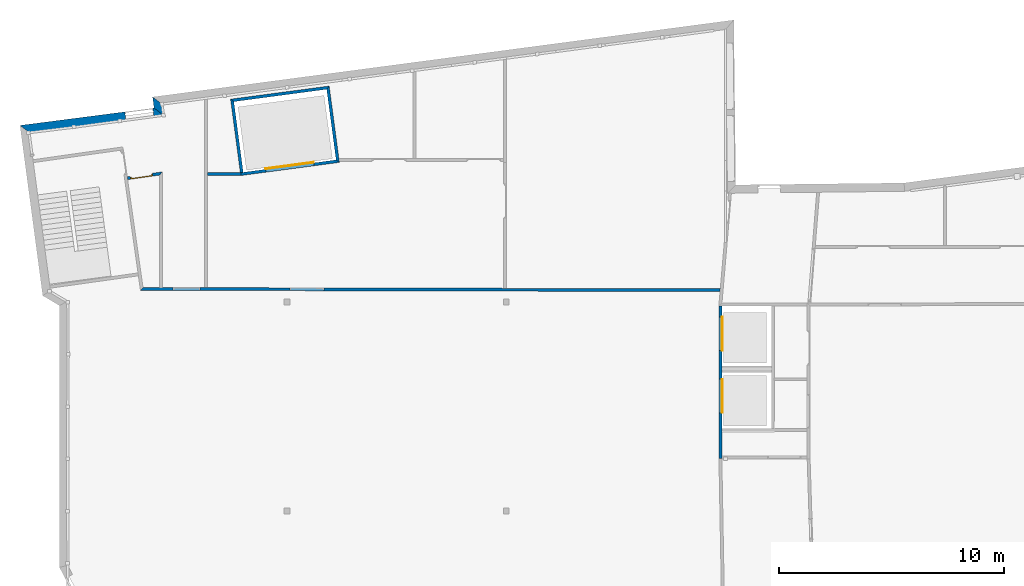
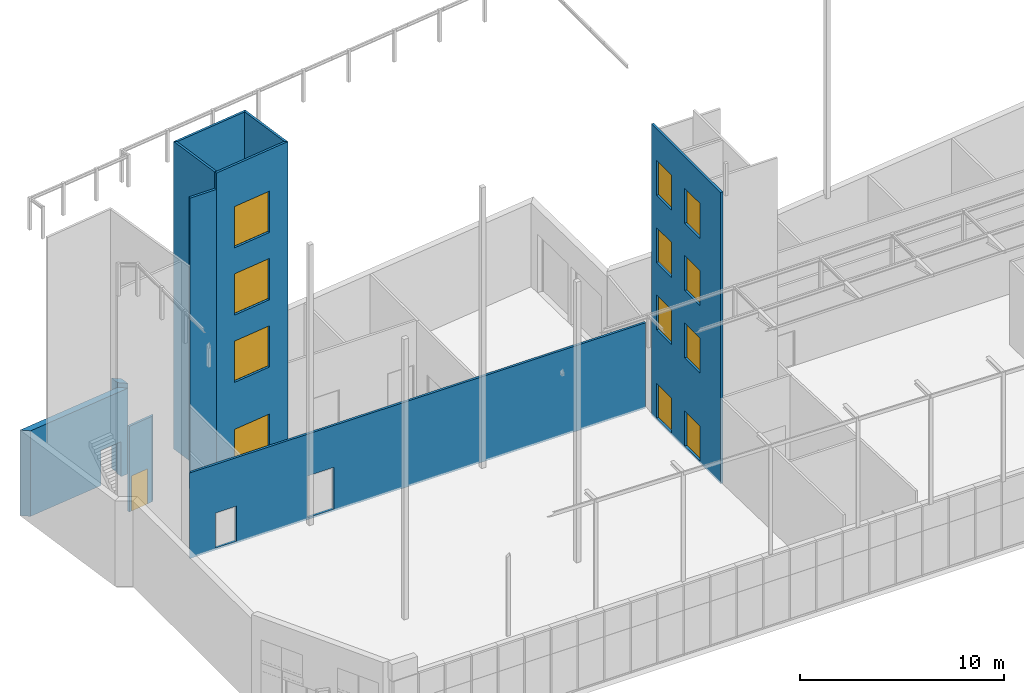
# One storey, part 24 of 40: 13 doors, 10 walls, 16 openings.
"""IFC2X3 building model written with IfcOpenShell, lengths in metres."""

from ifc_helpers import new_model, entity, si_unit, converted_unit, money_unit, direction, frame, origin_with_axes, origin_2d_with_axis, place, context, subcontext, project, spatial, polyline, rectangle, outline, extrude, faceted_brep, source, transform, mapped, material, material_list, layer, layer_set, layer_usage, type_object, element, fill, save


model = new_model("IFC2X3")

# Units and contexts
model_context = context("Model", 3, precision=1e-05, world=origin_with_axes(), true_north=direction((0.0, 1.0)))
body_context = subcontext(model_context, "Body", "Model", "MODEL_VIEW")
ifc_project = project(units=[si_unit("LENGTHUNIT", "METRE"), si_unit("AREAUNIT", "SQUARE_METRE"), si_unit("VOLUMEUNIT", "CUBIC_METRE"), converted_unit("PLANEANGLEUNIT", "DEGREE", entity("IfcPlaneAngleMeasure", 0.0174532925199), si_unit("PLANEANGLEUNIT", "RADIAN"), dimensions=[0, 0, 0, 0, 0, 0, 0]), si_unit("SOLIDANGLEUNIT", "STERADIAN"), money_unit("EUR"), converted_unit("TIMEUNIT", "Year", entity("IfcTimeMeasure", 31556926.0), si_unit("TIMEUNIT", "SECOND"), dimensions=[0, 0, 0, 0, 0, 0, 0]), si_unit("MASSUNIT", "GRAM"), si_unit("THERMODYNAMICTEMPERATUREUNIT", "DEGREE_CELSIUS"), si_unit("LUMINOUSINTENSITYUNIT", "LUMEN")], contexts=[model_context])

# Site, building, storey
site_placement = place(None, origin_with_axes())
site = spatial("IfcSite", under=ifc_project, at=site_placement, Name="Undefined", CompositionType="ELEMENT")
building_placement = place(site_placement, origin_with_axes())
building = spatial("IfcBuilding", under=site, at=building_placement, Name="Undefined", CompositionType="ELEMENT")
storey_placement = place(building_placement, origin_with_axes())
storey = spatial("IfcBuildingStorey", under=building, at=storey_placement, Name="Rez de chauss\x8ee", CompositionType="ELEMENT", Elevation=0.0)

# Wall, openings, doors
ifc_material_1 = material(Name="Finition int - Enduit pl\x89tre")
ifc_layer_1 = layer(ifc_material_1, 0.015, ventilated="UNKNOWN")
ifc_material_2 = material(Name="Struct. - Parpaing b\x8eton")
ifc_layer_2 = layer(ifc_material_2, 0.1, ventilated="UNKNOWN")
ifc_layer_3 = layer(ifc_material_1, 0.015, ventilated="UNKNOWN")
ifc_layer_set_1 = layer_set([ifc_layer_1, ifc_layer_2, ifc_layer_3], Name="0.0-Cloison: parpaing + pl\x89tre 2 faces copie")
ifc_layer_usage_1 = layer_usage(ifc_layer_set_1, "AXIS2", "NEGATIVE", 0.0)
wall_type_1 = type_object("IfcWallType", Name="0.0-Cloison: parpaing + pl\x89tre 2 faces copie 130", PredefinedType="NOTDEFINED")
wall_1_placement = place(storey_placement, frame((28.9587660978, 11.6449226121, 0.0), z_axis=(0.0, 0.0, 1.0), x_axis=(0.0, 1.0, 0.0)))
wall_1 = element("IfcWallStandardCase", 1, at=wall_1_placement, inside=storey, type_object=wall_type_1, material=ifc_layer_usage_1, Name="VOILE_15CM", ObjectType="6700*150", context=body_context, shape_type="SweptSolid", body=[
    extrude(outline(polyline([(0.0, -0.13), (6.78014607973, -0.13), (6.78014607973, 0.0), (0.0, 0.0), (0.0, -0.13)])), origin_with_axes(), (0.0, 0.0, 1.0), 17.4249999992),
])
opening_1_placement = place(wall_1_placement, frame((5.54271704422, 0.0, 0.12), z_axis=(0.0, 0.0, 1.0), x_axis=(1.0, 0.0, 0.0)))
opening_1 = element("IfcOpeningElement", 2, at=opening_1_placement, cuts=wall_1, Name="DOOR_1007", context=body_context, shape_type="SweptSolid", body=[
    extrude(rectangle(XDim=1.5, YDim=2.1, at=origin_2d_with_axis()), frame((0.0, 0.13, 1.05), z_axis=(0.0, 1.0, 0.0), x_axis=(1.0, 0.0, 0.0)), (0.0, 0.0, -1.0), 0.39),
])
opening_2_placement = place(wall_1_placement, frame((2.77421456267, 0.0, 0.12), z_axis=(0.0, 0.0, 1.0), x_axis=(1.0, 0.0, 0.0)))
opening_2 = element("IfcOpeningElement", 3, at=opening_2_placement, cuts=wall_1, Name="DOOR_1006", context=body_context, shape_type="SweptSolid", body=[
    extrude(rectangle(XDim=1.5, YDim=2.1, at=origin_2d_with_axis()), frame((0.0, 0.13, 1.05), z_axis=(0.0, 1.0, 0.0), x_axis=(1.0, 0.0, 0.0)), (0.0, 0.0, -1.0), 0.39),
])
opening_3_placement = place(wall_1_placement, frame((2.77421456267, 0.0, 5.4), z_axis=(0.0, 0.0, 1.0), x_axis=(1.0, 0.0, 0.0)))
opening_3 = element("IfcOpeningElement", 4, at=opening_3_placement, cuts=wall_1, Name="DOOR_1006", context=body_context, shape_type="SweptSolid", body=[
    extrude(rectangle(XDim=1.5, YDim=2.1, at=origin_2d_with_axis()), frame((0.0, 0.13, 1.05), z_axis=(0.0, 1.0, 0.0), x_axis=(1.0, 0.0, 0.0)), (0.0, 0.0, -1.0), 0.39),
])
opening_4_placement = place(wall_1_placement, frame((5.54271704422, 0.0, 5.4), z_axis=(0.0, 0.0, 1.0), x_axis=(1.0, 0.0, 0.0)))
opening_4 = element("IfcOpeningElement", 5, at=opening_4_placement, cuts=wall_1, Name="DOOR_1007", context=body_context, shape_type="SweptSolid", body=[
    extrude(rectangle(XDim=1.5, YDim=2.1, at=origin_2d_with_axis()), frame((0.0, 0.13, 1.05), z_axis=(0.0, 1.0, 0.0), x_axis=(1.0, 0.0, 0.0)), (0.0, 0.0, -1.0), 0.39),
])
opening_5_placement = place(wall_1_placement, frame((2.77421456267, 0.0, 9.425), z_axis=(0.0, 0.0, 1.0), x_axis=(1.0, 0.0, 0.0)))
opening_5 = element("IfcOpeningElement", 6, at=opening_5_placement, cuts=wall_1, Name="DOOR_1006", context=body_context, shape_type="SweptSolid", body=[
    extrude(rectangle(XDim=1.5, YDim=2.1, at=origin_2d_with_axis()), frame((0.0, 0.13, 1.05), z_axis=(0.0, 1.0, 0.0), x_axis=(1.0, 0.0, 0.0)), (0.0, 0.0, -1.0), 0.39),
])
opening_6_placement = place(wall_1_placement, frame((5.54271704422, 0.0, 9.425), z_axis=(0.0, 0.0, 1.0), x_axis=(1.0, 0.0, 0.0)))
opening_6 = element("IfcOpeningElement", 7, at=opening_6_placement, cuts=wall_1, Name="DOOR_1007", context=body_context, shape_type="SweptSolid", body=[
    extrude(rectangle(XDim=1.5, YDim=2.1, at=origin_2d_with_axis()), frame((0.0, 0.13, 1.05), z_axis=(0.0, 1.0, 0.0), x_axis=(1.0, 0.0, 0.0)), (0.0, 0.0, -1.0), 0.39),
])
opening_7_placement = place(wall_1_placement, frame((2.77421456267, 0.0, 13.45), z_axis=(0.0, 0.0, 1.0), x_axis=(1.0, 0.0, 0.0)))
opening_7 = element("IfcOpeningElement", 8, at=opening_7_placement, cuts=wall_1, Name="DOOR_1006", context=body_context, shape_type="SweptSolid", body=[
    extrude(rectangle(XDim=1.5, YDim=2.1, at=origin_2d_with_axis()), frame((0.0, 0.13, 1.05), z_axis=(0.0, 1.0, 0.0), x_axis=(1.0, 0.0, 0.0)), (0.0, 0.0, -1.0), 0.39),
])
opening_8_placement = place(wall_1_placement, frame((5.54271704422, 0.0, 13.45), z_axis=(0.0, 0.0, 1.0), x_axis=(1.0, 0.0, 0.0)))
opening_8 = element("IfcOpeningElement", 9, at=opening_8_placement, cuts=wall_1, Name="DOOR_1007", context=body_context, shape_type="SweptSolid", body=[
    extrude(rectangle(XDim=1.5, YDim=2.1, at=origin_2d_with_axis()), frame((0.0, 0.13, 1.05), z_axis=(0.0, 1.0, 0.0), x_axis=(1.0, 0.0, 0.0)), (0.0, 0.0, -1.0), 0.39),
])
ifc_material_3 = material(Name="Background Fill-International")
ifc_material_4 = material(Name="Air Space")
ifc_material_5 = material(Name="Foreground Fill-International")
ifc_material_6 = material(Name="07 | Insulation Rigid")
ifc_material_7 = material(Name="07 | Insulation Batt")
ifc_material_list_1 = material_list([ifc_material_3, ifc_material_4, ifc_material_5, ifc_material_3, ifc_material_3, ifc_material_3, ifc_material_3, ifc_material_6, ifc_material_3, ifc_material_3, ifc_material_3, ifc_material_3, ifc_material_3, ifc_material_7, ifc_material_3])
door_style_1 = type_object("IfcDoorStyle", Name="Porte coulissante double ext\x8erieure 18", ConstructionType="NOTDEFINED", OperationType="DOUBLE_DOOR_SLIDING", ParameterTakesPrecedence=False, Sizeable=False)
shared_shape_1 = source(origin_with_axes(), body_context, "Body", "Brep", [
    faceted_brep([(-0.75, 0.045, 0.0), (0.0, 0.045, 0.0), (0.0, 0.005, 0.0), (-0.75, 0.005, 0.0), (-0.75, 0.045, 2.1), (0.0, 0.045, 2.1), (0.0, 0.005, 2.1), (-0.75, 0.005, 2.1)], [[[0, 1, 2, 3]], [[0, 4, 5, 1]], [[1, 5, 6, 2]], [[3, 2, 6, 7]], [[4, 0, 3, 7]], [[5, 4, 7, 6]]]),
    faceted_brep([(0.75, 0.045, 0.0), (0.75, 0.005, 0.0), (0.0, 0.005, 0.0), (0.0, 0.045, 0.0), (0.75, 0.045, 2.1), (0.75, 0.005, 2.1), (0.0, 0.005, 2.1), (0.0, 0.045, 2.1)], [[[0, 1, 2, 3]], [[4, 5, 1, 0]], [[1, 5, 6, 2]], [[3, 2, 6, 7]], [[0, 3, 7, 4]], [[7, 6, 5, 4]]]),
])
door_1_placement = place(opening_1_placement, frame((0.75, 0.0, 0.0), z_axis=(0.0, 0.0, 1.0), x_axis=(-1.0, 0.0, 0.0)))
door_1 = element("IfcDoor", 10, at=door_1_placement, inside=storey, type_object=door_style_1, material=ifc_material_list_1, Name="DOOR_1007", ObjectType="DOOR", OverallHeight=2.1, OverallWidth=1.5, context=body_context, shape_type="MappedRepresentation", body=[
    mapped(shared_shape_1, transform((0.75, 0.13, 0.0))),
])
fill(opening_1, door_1)
door_2_placement = place(opening_2_placement, frame((0.75, 0.0, 0.0), z_axis=(0.0, 0.0, 1.0), x_axis=(-1.0, 0.0, 0.0)))
door_2 = element("IfcDoor", 11, at=door_2_placement, inside=storey, type_object=door_style_1, material=ifc_material_list_1, Name="DOOR_1006", ObjectType="DOOR", OverallHeight=2.1, OverallWidth=1.5, context=body_context, shape_type="MappedRepresentation", body=[
    mapped(shared_shape_1, transform((0.75, 0.13, 0.0))),
])
fill(opening_2, door_2)
shared_shape_2 = source(origin_with_axes(), body_context, "Body", "Brep", [
    faceted_brep([(-0.75, 0.045, 0.0), (0.0, 0.045, 0.0), (0.0, 0.005, 0.0), (-0.75, 0.005, 0.0), (-0.75, 0.045, 2.1), (0.0, 0.045, 2.1), (0.0, 0.005, 2.1), (-0.75, 0.005, 2.1)], [[[0, 1, 2, 3]], [[0, 4, 5, 1]], [[1, 5, 6, 2]], [[3, 2, 6, 7]], [[4, 0, 3, 7]], [[5, 4, 7, 6]]]),
    faceted_brep([(0.75, 0.045, 0.0), (0.75, 0.005, 0.0), (0.0, 0.005, 0.0), (0.0, 0.045, 0.0), (0.75, 0.045, 2.1), (0.75, 0.005, 2.1), (0.0, 0.005, 2.1), (0.0, 0.045, 2.1)], [[[0, 1, 2, 3]], [[4, 5, 1, 0]], [[1, 5, 6, 2]], [[3, 2, 6, 7]], [[0, 3, 7, 4]], [[7, 6, 5, 4]]]),
])
door_3_placement = place(opening_3_placement, frame((0.75, 0.0, 0.0), z_axis=(0.0, 0.0, 1.0), x_axis=(-1.0, 0.0, 0.0)))
door_3 = element("IfcDoor", 12, at=door_3_placement, inside=storey, type_object=door_style_1, material=ifc_material_list_1, Name="DOOR_1006", ObjectType="DOOR", OverallHeight=2.1, OverallWidth=1.5, context=body_context, shape_type="MappedRepresentation", body=[
    mapped(shared_shape_2, transform((0.75, 0.13, 0.0))),
])
fill(opening_3, door_3)
door_4_placement = place(opening_4_placement, frame((0.75, 0.0, 0.0), z_axis=(0.0, 0.0, 1.0), x_axis=(-1.0, 0.0, 0.0)))
door_4 = element("IfcDoor", 13, at=door_4_placement, inside=storey, type_object=door_style_1, material=ifc_material_list_1, Name="DOOR_1007", ObjectType="DOOR", OverallHeight=2.1, OverallWidth=1.5, context=body_context, shape_type="MappedRepresentation", body=[
    mapped(shared_shape_2, transform((0.75, 0.13, 0.0))),
])
fill(opening_4, door_4)
shared_shape_3 = source(origin_with_axes(), body_context, "Body", "Brep", [
    faceted_brep([(-0.75, 0.045, 0.0), (0.0, 0.045, 0.0), (0.0, 0.005, 0.0), (-0.75, 0.005, 0.0), (-0.75, 0.045, 2.1), (0.0, 0.045, 2.1), (0.0, 0.005, 2.1), (-0.75, 0.005, 2.1)], [[[0, 1, 2, 3]], [[0, 4, 5, 1]], [[1, 5, 6, 2]], [[3, 2, 6, 7]], [[4, 0, 3, 7]], [[5, 4, 7, 6]]]),
    faceted_brep([(0.75, 0.045, 0.0), (0.75, 0.005, 0.0), (0.0, 0.005, 0.0), (0.0, 0.045, 0.0), (0.75, 0.045, 2.1), (0.75, 0.005, 2.1), (0.0, 0.005, 2.1), (0.0, 0.045, 2.1)], [[[0, 1, 2, 3]], [[4, 5, 1, 0]], [[1, 5, 6, 2]], [[3, 2, 6, 7]], [[0, 3, 7, 4]], [[7, 6, 5, 4]]]),
])
door_5_placement = place(opening_5_placement, frame((0.75, 0.0, 0.0), z_axis=(0.0, 0.0, 1.0), x_axis=(-1.0, 0.0, 0.0)))
door_5 = element("IfcDoor", 14, at=door_5_placement, inside=storey, type_object=door_style_1, material=ifc_material_list_1, Name="DOOR_1006", ObjectType="DOOR", OverallHeight=2.1, OverallWidth=1.5, context=body_context, shape_type="MappedRepresentation", body=[
    mapped(shared_shape_3, transform((0.75, 0.13, 0.0))),
])
fill(opening_5, door_5)
door_6_placement = place(opening_6_placement, frame((0.75, 0.0, 0.0), z_axis=(0.0, 0.0, 1.0), x_axis=(-1.0, 0.0, 0.0)))
door_6 = element("IfcDoor", 15, at=door_6_placement, inside=storey, type_object=door_style_1, material=ifc_material_list_1, Name="DOOR_1007", ObjectType="DOOR", OverallHeight=2.1, OverallWidth=1.5, context=body_context, shape_type="MappedRepresentation", body=[
    mapped(shared_shape_3, transform((0.75, 0.13, 0.0))),
])
fill(opening_6, door_6)
shared_shape_4 = source(origin_with_axes(), body_context, "Body", "Brep", [
    faceted_brep([(-0.75, 0.045, 0.0), (0.0, 0.045, 0.0), (0.0, 0.005, 0.0), (-0.75, 0.005, 0.0), (-0.75, 0.045, 2.1), (0.0, 0.045, 2.1), (0.0, 0.005, 2.1), (-0.75, 0.005, 2.1)], [[[0, 1, 2, 3]], [[0, 4, 5, 1]], [[1, 5, 6, 2]], [[3, 2, 6, 7]], [[4, 0, 3, 7]], [[5, 4, 7, 6]]]),
    faceted_brep([(0.75, 0.045, 0.0), (0.75, 0.005, 0.0), (0.0, 0.005, 0.0), (0.0, 0.045, 0.0), (0.75, 0.045, 2.1), (0.75, 0.005, 2.1), (0.0, 0.005, 2.1), (0.0, 0.045, 2.1)], [[[0, 1, 2, 3]], [[4, 5, 1, 0]], [[1, 5, 6, 2]], [[3, 2, 6, 7]], [[0, 3, 7, 4]], [[7, 6, 5, 4]]]),
])
door_7_placement = place(opening_7_placement, frame((0.75, 0.0, 0.0), z_axis=(0.0, 0.0, 1.0), x_axis=(-1.0, 0.0, 0.0)))
door_7 = element("IfcDoor", 16, at=door_7_placement, inside=storey, type_object=door_style_1, material=ifc_material_list_1, Name="DOOR_1006", ObjectType="DOOR", OverallHeight=2.1, OverallWidth=1.5, context=body_context, shape_type="MappedRepresentation", body=[
    mapped(shared_shape_4, transform((0.75, 0.13, 0.0))),
])
fill(opening_7, door_7)
door_8_placement = place(opening_8_placement, frame((0.75, 0.0, 0.0), z_axis=(0.0, 0.0, 1.0), x_axis=(-1.0, 0.0, 0.0)))
door_8 = element("IfcDoor", 17, at=door_8_placement, inside=storey, type_object=door_style_1, material=ifc_material_list_1, Name="DOOR_1007", ObjectType="DOOR", OverallHeight=2.1, OverallWidth=1.5, context=body_context, shape_type="MappedRepresentation", body=[
    mapped(shared_shape_4, transform((0.75, 0.13, 0.0))),
])
fill(opening_8, door_8)

# Wall
ifc_layer_usage_2 = layer_usage(ifc_layer_set_1, "AXIS2", "NEGATIVE", 0.0)
wall_2_placement = place(storey_placement, frame((7.70283783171, 24.2267083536, 0.0), z_axis=(0.0, 0.0, 1.0), x_axis=(-0.99999999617, -8.7523968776e-05, 0.0)))
element("IfcWallStandardCase", 18, at=wall_2_placement, inside=storey, type_object=wall_type_1, material=ifc_layer_usage_2, Name="MACONNERIE_15CM", ObjectType="5000*150", context=body_context, shape_type="SweptSolid", body=[
    extrude(outline(polyline([(0.00862882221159, -0.13), (1.49077293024, -0.13), (1.49078430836, 0.0), (-4.82772932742e-08, 0.0), (0.00862882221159, -0.13)])), origin_with_axes(), (0.0, 0.0, 1.0), 17.4249999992),
])

# Wall, opening, door
ifc_layer_usage_3 = layer_usage(ifc_layer_set_1, "AXIS2", "NEGATIVE", 0.0)
wall_3_placement = place(storey_placement, frame((2.64282933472, 24.1727505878, 0.0), z_axis=(0.0, 0.0, 1.0), x_axis=(0.990268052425, 0.13917321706, 0.0)))
wall_3 = element("IfcWallStandardCase", 19, at=wall_3_placement, inside=storey, type_object=wall_type_1, material=ifc_layer_usage_3, Name="Wall_Int_05", context=body_context, shape_type="SweptSolid", body=[
    extrude(outline(polyline([(0.000230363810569, -0.13), (1.42973236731, -0.13), (1.57928027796, 0.0), (0.0, 0.0), (0.000230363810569, -0.13)])), origin_with_axes(), (0.0, 0.0, 1.0), 5.12),
])
opening_9_placement = place(wall_3_placement, frame((0.630432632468, 0.0, 0.0), z_axis=(0.0, 0.0, 1.0), x_axis=(1.0, 0.0, 0.0)))
opening_9 = element("IfcOpeningElement", 20, at=opening_9_placement, cuts=wall_3, Name="DOOR_1000", context=body_context, shape_type="SweptSolid", body=[
    extrude(rectangle(XDim=1.0, YDim=2.1, at=origin_2d_with_axis()), frame((0.0, -0.26, 1.05), z_axis=(0.0, 1.0, 0.0), x_axis=(1.0, 0.0, 0.0)), (0.0, 0.0, 1.0), 0.13),
    extrude(rectangle(XDim=1.0, YDim=2.1, at=origin_2d_with_axis()), frame((0.0, 0.0, 1.05), z_axis=(0.0, -1.0, 0.0), x_axis=(1.0, 0.0, 0.0)), (0.0, 0.0, 1.0), 0.13),
])
ifc_material_list_2 = material_list([ifc_material_3, ifc_material_4])
door_style_2 = type_object("IfcDoorStyle", Name="IFC Porte - Simple battant", ConstructionType="NOTDEFINED", OperationType="SINGLE_SWING_RIGHT", ParameterTakesPrecedence=True, Sizeable=False)
shared_shape_5 = source(origin_with_axes(), body_context, "Body", "Brep", [
    faceted_brep([(-0.5, 0.0, 0.0), (-0.45, 0.0, 0.0), (-0.45, -0.1, 0.0), (-0.5, -0.1, 0.0), (-0.5, 0.0, 2.1), (0.5, 0.0, 2.1), (0.5, 0.0, 0.0), (0.45, 0.0, 0.0), (0.45, 0.0, 2.05), (-0.45, 0.0, 2.05), (-0.45, -0.1, 2.05), (0.45, -0.1, 2.05), (0.45, -0.1, 0.0), (0.5, -0.1, 0.0), (0.5, -0.1, 2.1), (-0.5, -0.1, 2.1)], [[[0, 1, 2, 3]], [[0, 4, 5, 6, 7, 8, 9, 1]], [[1, 9, 10, 2]], [[3, 2, 10, 11, 12, 13, 14, 15]], [[4, 0, 3, 15]], [[5, 4, 15, 14]], [[6, 5, 14, 13]], [[7, 6, 13, 12]], [[8, 7, 12, 11]], [[9, 8, 11, 10]]]),
    faceted_brep([(0.45, 0.0, 0.0), (0.45, 0.0, 2.05), (0.45, -0.04, 2.05), (0.45, -0.04, 0.0), (-0.45, 0.0, 0.0), (-0.45, 0.0, 2.05), (-0.45, -0.04, 2.05), (-0.45, -0.04, 0.0)], [[[0, 1, 2, 3]], [[0, 4, 5, 1]], [[1, 5, 6, 2]], [[3, 2, 6, 7]], [[4, 0, 3, 7]], [[5, 4, 7, 6]]]),
])
door_9_placement = place(opening_9_placement, frame((0.5, 0.0, 0.0), z_axis=(0.0, 0.0, 1.0), x_axis=(-1.0, 0.0, 0.0)))
door_9 = element("IfcDoor", 21, at=door_9_placement, inside=storey, type_object=door_style_2, material=ifc_material_list_2, Name="DOOR_1000", ObjectType="DOOR", OverallHeight=2.1, OverallWidth=1.0, context=body_context, shape_type="MappedRepresentation", body=[
    mapped(shared_shape_5, transform((0.5, 0.13, 0.0))),
])
fill(opening_9, door_9)

# Wall, openings, doors
ifc_layer_usage_4 = layer_usage(ifc_layer_set_1, "AXIS2", "NEGATIVE", 0.0)
wall_4_placement = place(storey_placement, frame((12.0790641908, 24.8106212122, 0.0), z_axis=(0.0, 0.0, 1.0), x_axis=(-0.991215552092, -0.132256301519, 0.0)))
wall_4 = element("IfcWallStandardCase", 22, at=wall_4_placement, inside=storey, type_object=wall_type_1, material=ifc_layer_usage_4, Name="VOILE_15CM", ObjectType="6700*150", context=body_context, shape_type="SweptSolid", body=[
    extrude(outline(polyline([(0.13, -0.13), (4.4063808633, -0.13), (4.41500973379, 0.0), (0.0, 0.0), (0.13, -0.13)])), origin_with_axes(), (0.0, 0.0, 1.0), 18.4),
])
opening_10_placement = place(wall_4_placement, frame((2.21506014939, 0.0, 0.12), z_axis=(0.0, 0.0, 1.0), x_axis=(1.0, 0.0, 0.0)))
opening_10 = element("IfcOpeningElement", 23, at=opening_10_placement, cuts=wall_4, Name="DOOR_1007", context=body_context, shape_type="SweptSolid", body=[
    extrude(rectangle(XDim=2.15999982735, YDim=2.47221199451, at=origin_2d_with_axis()), frame((0.0, 0.13, 1.23610599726), z_axis=(0.0, 1.0, 0.0), x_axis=(1.0, 0.0, 0.0)), (0.0, 0.0, -1.0), 0.39),
])
opening_11_placement = place(wall_4_placement, frame((2.21506014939, 0.0, 5.40000000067), z_axis=(0.0, 0.0, 1.0), x_axis=(1.0, 0.0, 0.0)))
opening_11 = element("IfcOpeningElement", 24, at=opening_11_placement, cuts=wall_4, Name="DOOR_1007", context=body_context, shape_type="SweptSolid", body=[
    extrude(rectangle(XDim=2.15999982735, YDim=2.47221199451, at=origin_2d_with_axis()), frame((0.0, 0.13, 1.23610599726), z_axis=(0.0, 1.0, 0.0), x_axis=(1.0, 0.0, 0.0)), (0.0, 0.0, -1.0), 0.39),
])
opening_12_placement = place(wall_4_placement, frame((2.21506014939, 0.0, 9.425), z_axis=(0.0, 0.0, 1.0), x_axis=(1.0, 0.0, 0.0)))
opening_12 = element("IfcOpeningElement", 25, at=opening_12_placement, cuts=wall_4, Name="DOOR_1007", context=body_context, shape_type="SweptSolid", body=[
    extrude(rectangle(XDim=2.15999982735, YDim=2.47221199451, at=origin_2d_with_axis()), frame((0.0, 0.13, 1.23610599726), z_axis=(0.0, 1.0, 0.0), x_axis=(1.0, 0.0, 0.0)), (0.0, 0.0, -1.0), 0.39),
])
opening_13_placement = place(wall_4_placement, frame((2.21506014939, 0.0, 13.45), z_axis=(0.0, 0.0, 1.0), x_axis=(1.0, 0.0, 0.0)))
opening_13 = element("IfcOpeningElement", 26, at=opening_13_placement, cuts=wall_4, Name="DOOR_1007", context=body_context, shape_type="SweptSolid", body=[
    extrude(rectangle(XDim=2.15999982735, YDim=2.47221199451, at=origin_2d_with_axis()), frame((0.0, 0.13, 1.23610599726), z_axis=(0.0, 1.0, 0.0), x_axis=(1.0, 0.0, 0.0)), (0.0, 0.0, -1.0), 0.39),
])
shared_shape_6 = source(origin_with_axes(), body_context, "Body", "Brep", [
    faceted_brep([(-1.07999991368, 0.045, 0.0), (0.0, 0.045, 0.0), (0.0, 0.005, 0.0), (-1.07999991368, 0.005, 0.0), (-1.07999991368, 0.045, 2.47221199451), (0.0, 0.045, 2.47221199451), (0.0, 0.005, 2.47221199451), (-1.07999991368, 0.005, 2.47221199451)], [[[0, 1, 2, 3]], [[0, 4, 5, 1]], [[1, 5, 6, 2]], [[3, 2, 6, 7]], [[4, 0, 3, 7]], [[5, 4, 7, 6]]]),
    faceted_brep([(1.07999991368, 0.045, 0.0), (1.07999991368, 0.005, 0.0), (0.0, 0.005, 0.0), (0.0, 0.045, 0.0), (1.07999991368, 0.045, 2.47221199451), (1.07999991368, 0.005, 2.47221199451), (0.0, 0.005, 2.47221199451), (0.0, 0.045, 2.47221199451)], [[[0, 1, 2, 3]], [[4, 5, 1, 0]], [[1, 5, 6, 2]], [[3, 2, 6, 7]], [[0, 3, 7, 4]], [[7, 6, 5, 4]]]),
])
door_10_placement = place(opening_10_placement, frame((1.07999991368, 0.0, 0.0), z_axis=(0.0, 0.0, 1.0), x_axis=(-1.0, 0.0, 0.0)))
door_10 = element("IfcDoor", 27, at=door_10_placement, inside=storey, type_object=door_style_1, material=ifc_material_list_1, Name="DOOR_1007", ObjectType="DOOR", OverallHeight=2.47221, OverallWidth=2.16, context=body_context, shape_type="MappedRepresentation", body=[
    mapped(shared_shape_6, transform((1.07999991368, 0.13, 0.0))),
])
fill(opening_10, door_10)
shared_shape_7 = source(origin_with_axes(), body_context, "Body", "Brep", [
    faceted_brep([(-1.07999991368, 0.045, 0.0), (0.0, 0.045, 0.0), (0.0, 0.005, 0.0), (-1.07999991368, 0.005, 0.0), (-1.07999991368, 0.045, 2.47221199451), (0.0, 0.045, 2.47221199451), (0.0, 0.005, 2.47221199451), (-1.07999991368, 0.005, 2.47221199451)], [[[0, 1, 2, 3]], [[0, 4, 5, 1]], [[1, 5, 6, 2]], [[3, 2, 6, 7]], [[4, 0, 3, 7]], [[5, 4, 7, 6]]]),
    faceted_brep([(1.07999991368, 0.045, 0.0), (1.07999991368, 0.005, 0.0), (0.0, 0.005, 0.0), (0.0, 0.045, 0.0), (1.07999991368, 0.045, 2.47221199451), (1.07999991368, 0.005, 2.47221199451), (0.0, 0.005, 2.47221199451), (0.0, 0.045, 2.47221199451)], [[[0, 1, 2, 3]], [[4, 5, 1, 0]], [[1, 5, 6, 2]], [[3, 2, 6, 7]], [[0, 3, 7, 4]], [[7, 6, 5, 4]]]),
])
door_11_placement = place(opening_11_placement, frame((1.07999991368, 0.0, 0.0), z_axis=(0.0, 0.0, 1.0), x_axis=(-1.0, 0.0, 0.0)))
door_11 = element("IfcDoor", 28, at=door_11_placement, inside=storey, type_object=door_style_1, material=ifc_material_list_1, Name="DOOR_1007", ObjectType="DOOR", OverallHeight=2.47221, OverallWidth=2.16, context=body_context, shape_type="MappedRepresentation", body=[
    mapped(shared_shape_7, transform((1.07999991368, 0.13, 0.0))),
])
fill(opening_11, door_11)
shared_shape_8 = source(origin_with_axes(), body_context, "Body", "Brep", [
    faceted_brep([(-1.07999991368, 0.045, 0.0), (0.0, 0.045, 0.0), (0.0, 0.005, 0.0), (-1.07999991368, 0.005, 0.0), (-1.07999991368, 0.045, 2.47221199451), (0.0, 0.045, 2.47221199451), (0.0, 0.005, 2.47221199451), (-1.07999991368, 0.005, 2.47221199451)], [[[0, 1, 2, 3]], [[0, 4, 5, 1]], [[1, 5, 6, 2]], [[3, 2, 6, 7]], [[4, 0, 3, 7]], [[5, 4, 7, 6]]]),
    faceted_brep([(1.07999991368, 0.045, 0.0), (1.07999991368, 0.005, 0.0), (0.0, 0.005, 0.0), (0.0, 0.045, 0.0), (1.07999991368, 0.045, 2.47221199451), (1.07999991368, 0.005, 2.47221199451), (0.0, 0.005, 2.47221199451), (0.0, 0.045, 2.47221199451)], [[[0, 1, 2, 3]], [[4, 5, 1, 0]], [[1, 5, 6, 2]], [[3, 2, 6, 7]], [[0, 3, 7, 4]], [[7, 6, 5, 4]]]),
])
door_12_placement = place(opening_12_placement, frame((1.07999991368, 0.0, 0.0), z_axis=(0.0, 0.0, 1.0), x_axis=(-1.0, 0.0, 0.0)))
door_12 = element("IfcDoor", 29, at=door_12_placement, inside=storey, type_object=door_style_1, material=ifc_material_list_1, Name="DOOR_1007", ObjectType="DOOR", OverallHeight=2.47221, OverallWidth=2.16, context=body_context, shape_type="MappedRepresentation", body=[
    mapped(shared_shape_8, transform((1.07999991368, 0.13, 0.0))),
])
fill(opening_12, door_12)
shared_shape_9 = source(origin_with_axes(), body_context, "Body", "Brep", [
    faceted_brep([(-1.07999991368, 0.045, 0.0), (0.0, 0.045, 0.0), (0.0, 0.005, 0.0), (-1.07999991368, 0.005, 0.0), (-1.07999991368, 0.045, 2.47221199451), (0.0, 0.045, 2.47221199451), (0.0, 0.005, 2.47221199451), (-1.07999991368, 0.005, 2.47221199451)], [[[0, 1, 2, 3]], [[0, 4, 5, 1]], [[1, 5, 6, 2]], [[3, 2, 6, 7]], [[4, 0, 3, 7]], [[5, 4, 7, 6]]]),
    faceted_brep([(1.07999991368, 0.045, 0.0), (1.07999991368, 0.005, 0.0), (0.0, 0.005, 0.0), (0.0, 0.045, 0.0), (1.07999991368, 0.045, 2.47221199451), (1.07999991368, 0.005, 2.47221199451), (0.0, 0.005, 2.47221199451), (0.0, 0.045, 2.47221199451)], [[[0, 1, 2, 3]], [[4, 5, 1, 0]], [[1, 5, 6, 2]], [[3, 2, 6, 7]], [[0, 3, 7, 4]], [[7, 6, 5, 4]]]),
])
door_13_placement = place(opening_13_placement, frame((1.07999991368, 0.0, 0.0), z_axis=(0.0, 0.0, 1.0), x_axis=(-1.0, 0.0, 0.0)))
door_13 = element("IfcDoor", 30, at=door_13_placement, inside=storey, type_object=door_style_1, material=ifc_material_list_1, Name="DOOR_1007", ObjectType="DOOR", OverallHeight=2.47221, OverallWidth=2.16, context=body_context, shape_type="MappedRepresentation", body=[
    mapped(shared_shape_9, transform((1.07999991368, 0.13, 0.0))),
])
fill(opening_13, door_13)

# Walls
ifc_layer_usage_5 = layer_usage(ifc_layer_set_1, "AXIS2", "NEGATIVE", 0.015)
wall_5_placement = place(storey_placement, frame((7.70283783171, 24.2267083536, 0.0), z_axis=(0.0, 0.0, 1.0), x_axis=(-0.131609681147, 0.991301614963, 0.0)))
element("IfcWallStandardCase", 31, at=wall_5_placement, inside=storey, type_object=wall_type_1, material=ifc_layer_usage_5, Name="VOILE_15CM", ObjectType="6700*150", context=body_context, shape_type="SweptSolid", body=[
    extrude(outline(polyline([(0.130075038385, -0.115), (3.3017297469, -0.115), (3.43169498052, 0.015), (0.133129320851, 0.015), (0.130075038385, -0.115)])), origin_with_axes(), (0.0, 0.0, 1.0), 18.4),
])
ifc_layer_usage_6 = layer_usage(ifc_layer_set_1, "AXIS2", "NEGATIVE", 0.0)
wall_6_placement = place(storey_placement, frame((7.2511930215, 27.628557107, 0.0), z_axis=(0.0, 0.0, 1.0), x_axis=(0.991266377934, 0.131874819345, 0.0)))
element("IfcWallStandardCase", 32, at=wall_6_placement, inside=storey, type_object=wall_type_1, material=ifc_layer_usage_6, Name="VOILE_15CM", ObjectType="6700*150", context=body_context, shape_type="SweptSolid", body=[
    extrude(outline(polyline([(0.114965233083, -0.13), (4.28282155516, -0.13), (4.41277153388, 0.0), (-0.0150000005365, 0.0), (0.114965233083, -0.13)])), origin_with_axes(), (0.0, 0.0, 1.0), 18.4),
])
ifc_layer_usage_7 = layer_usage(ifc_layer_set_1, "AXIS2", "NEGATIVE", 0.0)
wall_7_placement = place(storey_placement, frame((11.6254250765, 28.2104905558, 0.0), z_axis=(0.0, 0.0, 1.0), x_axis=(0.132256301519, -0.991215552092, 0.0)))
element("IfcWallStandardCase", 33, at=wall_7_placement, inside=storey, type_object=wall_type_1, material=ifc_layer_usage_7, Name="Wall_Int_08", context=body_context, shape_type="SweptSolid", body=[
    extrude(outline(polyline([(0.12994997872, -0.13), (3.3, -0.13), (3.43, 0.0), (0.0, 0.0), (0.12994997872, -0.13)])), origin_with_axes(), (0.0, 0.0, 1.0), 18.4),
])

# Wall, openings
ifc_layer_usage_8 = layer_usage(ifc_layer_set_1, "AXIS2", "NEGATIVE", 0.0)
wall_8_placement = place(storey_placement, frame((3.34368482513, 19.2492296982, 0.0), z_axis=(0.0, 0.0, 1.0), x_axis=(0.999997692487, -0.00214826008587, 0.0)))
wall_8 = element("IfcWallStandardCase", 34, at=wall_8_placement, inside=storey, type_object=wall_type_1, material=ifc_layer_usage_8, Name="Wall_Int_06", context=body_context, shape_type="SweptSolid", body=[
    extrude(outline(polyline([(-0.112560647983, -0.13), (25.6646604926, -0.13), (25.675531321, 0.0), (0.0, 0.0), (-0.112560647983, -0.13)])), origin_with_axes(), (0.0, 0.0, 1.0), 5.12),
])
opening_14_placement = place(wall_8_placement, frame((1.9416639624, 0.0, 0.12), z_axis=(0.0, 0.0, 1.0), x_axis=(1.0, 0.0, 0.0)))
element("IfcOpeningElement", 35, at=opening_14_placement, cuts=wall_8, Name="DOOR", context=body_context, shape_type="SweptSolid", body=[
    extrude(rectangle(XDim=1.2, YDim=2.1, at=origin_2d_with_axis()), frame((0.0, 0.13, 1.05), z_axis=(0.0, -1.0, 0.0), x_axis=(1.0, 0.0, 0.0)), (0.0, 0.0, 1.0), 0.13),
    extrude(rectangle(XDim=1.2, YDim=2.1, at=origin_2d_with_axis()), frame((0.0, -0.13, 1.05), z_axis=(0.0, 1.0, 0.0), x_axis=(1.0, 0.0, 0.0)), (0.0, 0.0, 1.0), 0.13),
])
opening_15_placement = place(wall_8_placement, frame((7.28907889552, 0.0, 0.12), z_axis=(0.0, 0.0, 1.0), x_axis=(1.0, 0.0, 0.0)))
element("IfcOpeningElement", 36, at=opening_15_placement, cuts=wall_8, Name="DOOR", context=body_context, shape_type="SweptSolid", body=[
    extrude(rectangle(XDim=1.5, YDim=2.5, at=origin_2d_with_axis()), frame((0.0, 0.13, 1.25), z_axis=(0.0, -1.0, 0.0), x_axis=(1.0, 0.0, 0.0)), (0.0, 0.0, 1.0), 0.13),
    extrude(rectangle(XDim=1.5, YDim=2.5, at=origin_2d_with_axis()), frame((0.0, -0.13, 1.25), z_axis=(0.0, 1.0, 0.0), x_axis=(1.0, 0.0, 0.0)), (0.0, 0.0, 1.0), 0.13),
])

# Wall
ifc_material_8 = material(Name="Finition ext - Cr\x8epis")
ifc_layer_4 = layer(ifc_material_8, 0.015, ventilated="UNKNOWN")
ifc_material_9 = material(Name="Isolation - Fibres de bois")
ifc_layer_5 = layer(ifc_material_9, 0.16, ventilated="UNKNOWN")
ifc_material_10 = material(Name="Struct. - B.A. banch\x8e")
ifc_layer_6 = layer(ifc_material_10, 0.18, ventilated="UNKNOWN")
ifc_layer_7 = layer(ifc_material_1, 0.015, ventilated="UNKNOWN")
ifc_layer_set_2 = layer_set([ifc_layer_4, ifc_layer_5, ifc_layer_6, ifc_layer_7], Name="1.2-Mur ext: rev\x8et ext + isol ext + ma\x8donnerie + enduit")
ifc_layer_usage_9 = layer_usage(ifc_layer_set_2, "AXIS2", "POSITIVE", 0.0)
wall_type_2 = type_object("IfcWallType", Name="1.2-Mur ext: rev\x8et ext + isol ext + ma\x8donnerie + enduit 370", PredefinedType="NOTDEFINED")
wall_9_placement = place(storey_placement, frame((3.77156587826, 27.7234830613, 0.0), z_axis=(0.0, 0.0, 1.0), x_axis=(0.1322572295, -0.991215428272, 0.0)))
element("IfcWallStandardCase", 37, at=wall_9_placement, inside=storey, type_object=wall_type_2, material=ifc_layer_usage_9, Name="WallEx02", ObjectType="WALL", context=body_context, shape_type="SweptSolid", body=[
    extrude(outline(polyline([(0.0, 0.0), (0.498900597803, 0.0), (0.870369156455, 0.37), (0.370370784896, 0.37), (0.0, 0.0)])), origin_with_axes(), (0.0, 0.0, 1.0), 5.4),
])

# Wall, opening
ifc_layer_usage_10 = layer_usage(ifc_layer_set_2, "AXIS2", "POSITIVE", 0.0)
wall_10_placement = place(storey_placement, frame((3.83754908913, 27.2289650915, 0.0), z_axis=(0.0, 0.0, 1.0), x_axis=(-0.991731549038, -0.128329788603, 0.0)))
wall_10 = element("IfcWallStandardCase", 38, at=wall_10_placement, inside=storey, type_object=wall_type_2, material=ifc_layer_usage_10, Name="WallEx02", ObjectType="WALL", context=body_context, shape_type="SweptSolid", body=[
    extrude(outline(polyline([(0.0, 0.0), (6.01504925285, 0.0), (5.64358081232, 0.37), (-0.371468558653, 0.37), (0.0, 0.0)])), origin_with_axes(), (0.0, 0.0, 1.0), 5.12),
])
opening_16_placement = place(wall_10_placement, frame((0.684183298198, 0.0, 0.0), z_axis=(0.0, 0.0, 1.0), x_axis=(1.0, 0.0, 0.0)))
element("IfcOpeningElement", 39, at=opening_16_placement, cuts=wall_10, Name="DOOR", context=body_context, shape_type="SweptSolid", body=[
    extrude(rectangle(XDim=1.25889482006, YDim=2.1, at=origin_2d_with_axis()), frame((0.0, -0.37, 1.05), z_axis=(0.0, 1.0, 0.0), x_axis=(1.0, 0.0, 0.0)), (0.0, 0.0, 1.0), 0.37),
    extrude(rectangle(XDim=1.25889482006, YDim=2.1, at=origin_2d_with_axis()), frame((0.0, 0.37, 1.05), z_axis=(0.0, -1.0, 0.0), x_axis=(1.0, 0.0, 0.0)), (0.0, 0.0, 1.0), 0.37),
])

save(model, "model.ifc")
